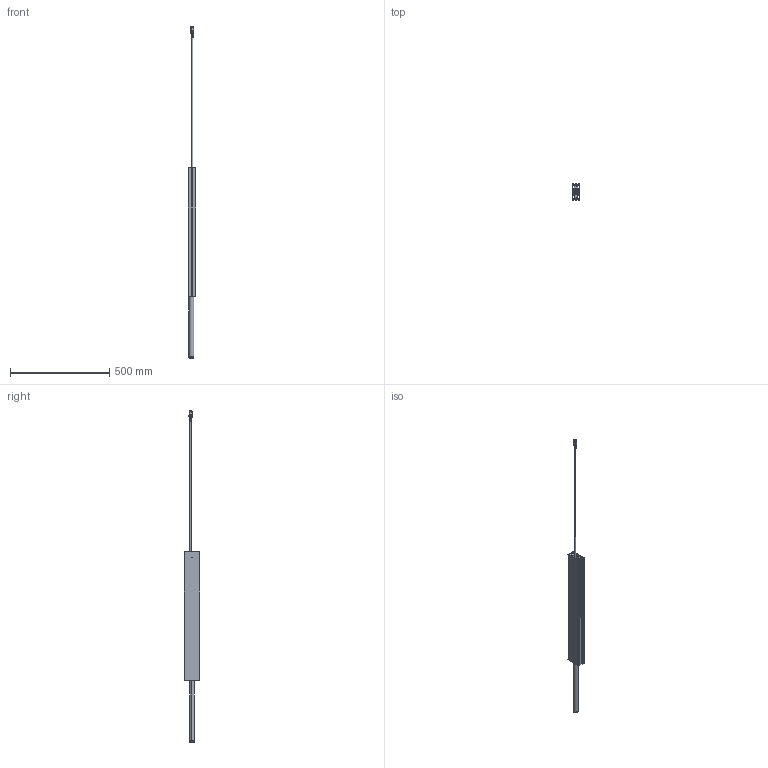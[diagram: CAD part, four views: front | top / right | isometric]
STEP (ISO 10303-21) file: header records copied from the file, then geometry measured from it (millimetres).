
FILE_DESCRIPTION (( 'STEP AP214' ), '1' );
FILE_NAME ('004 10270_ZB Actuator SMS-I-40x80_Hub300_ausgefahren.STEP', '2018-09-03T12:56:02', ( '' ), ( '' ), 'SwSTEP 2.0', 'SolidWorks 2017', '' );
FILE_SCHEMA (( 'AUTOMOTIVE_DESIGN' ));
Length unit declared in the file: millimetre
Products named in the file (1): 004 10270_ZB Actuator SMS-I-40x80_Hub300_ausgefahren
Bounding box: 40 x 80 x 1675.6 mm (x, y, z)
Surface area: 495185.2 mm2 (no closed solid volume)
Topology: 0 solids, 5 shells, 2847 faces, 7689 edges, 4710 vertices
Faces by surface type: bspline 910, plane 840, cylinder 679, cone 288, torus 85, sphere 45
Entity records: 161147 total; most frequent: CARTESIAN_POINT 85619, ORIENTED_EDGE 14906, DIRECTION 10443, EDGE_CURVE 7456, VERTEX_POINT 4704, AXIS2_PLACEMENT_3D 3996, EDGE_LOOP 2957, ADVANCED_FACE 2847
